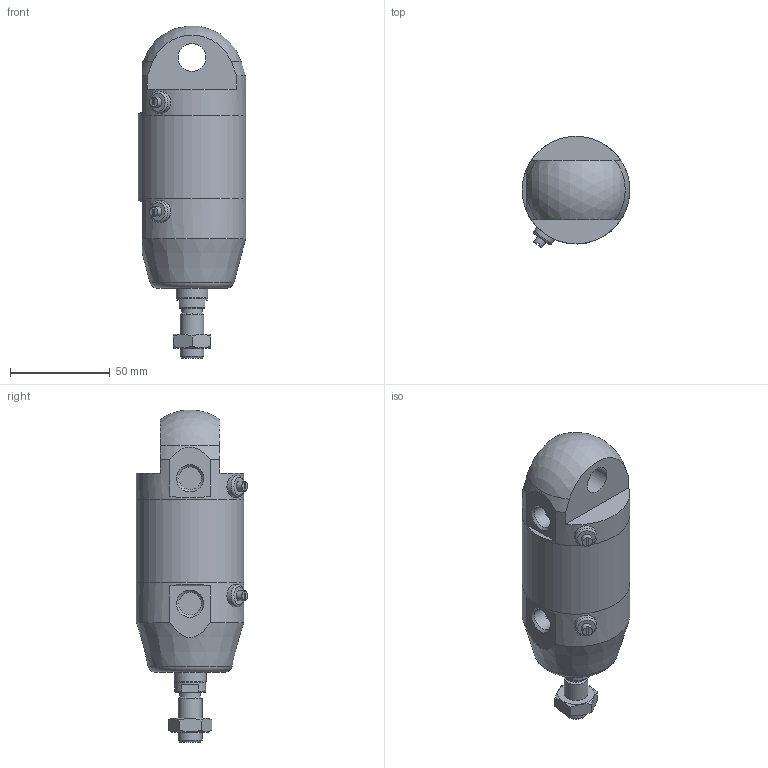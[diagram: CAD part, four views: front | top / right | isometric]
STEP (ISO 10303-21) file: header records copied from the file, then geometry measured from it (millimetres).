
FILE_DESCRIPTION(/* description */ (''),/* implementation_level */ '2;1');
FILE_NAME(/* name */ 'I:\Area Tecnica\Documenti\A-Manieri\_Inventor\12X\12X#A_###_####_#_#\12XBA_050_0000_#_#.stp',/* time_stamp */ '2015-04-24T09:18:16+02:00',/* author */ ('maniean1'),/* organization */ ('Pneumax S.p.A.'),/* preprocessor_version */ 'ST-DEVELOPER v15.2',/* originating_system */ 'Autodesk Inventor 2014',/* authorisation */ '');
FILE_SCHEMA (('AUTOMOTIVE_DESIGN { 1 0 10303 214 3 1 1 }'));
Length unit declared in the file: millimetre
Products named in the file (6): C1250_619-0000; 12X50_614; 12X50_607; S12X50_0000; 12X_50_11; 12XBA_050_0000_#_#
Bounding box: 54 x 55.88 x 166.83 mm (x, y, z)
Volume: 254858.3 mm3; surface area: 53998.6 mm2
Topology: 5 solids, 5 shells, 77 faces, 168 edges, 109 vertices
Faces by surface type: plane 43, cylinder 18, cone 12, torus 3, sphere 1
Full cylindrical faces by diameter (mm): 5 x2, 10.2 x1, 11 x2, 11.4 x2, 12 x2, 14 x2, 15.6 x1, 16 x1, 50 x2, 54 x3
Entity records: 2072 total; most frequent: CARTESIAN_POINT 428, DIRECTION 346, ORIENTED_EDGE 260, AXIS2_PLACEMENT_3D 152, EDGE_CURVE 130, EDGE_LOOP 122, VERTEX_POINT 100, ADVANCED_FACE 77
